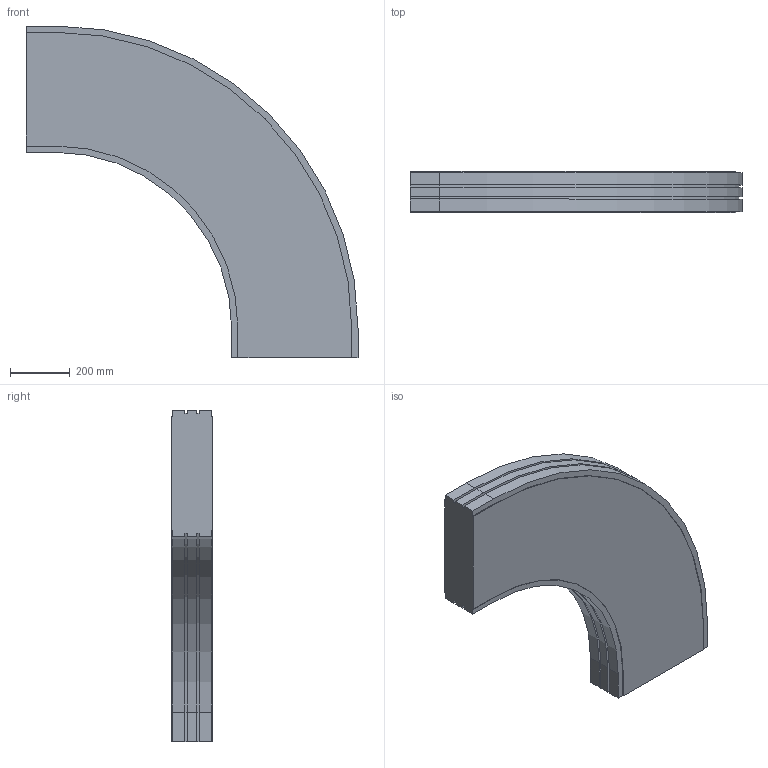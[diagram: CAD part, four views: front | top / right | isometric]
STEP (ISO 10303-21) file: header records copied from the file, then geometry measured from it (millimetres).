
FILE_DESCRIPTION (( 'STEP AP214' ), '1' );
FILE_NAME ('02.150H90.420.N FS-MTC-150 Bocht horizontaal 90°.STEP', '2013-03-29T11:17:06', ( 'Gebruiker' ), ( '' ), 'SwSTEP 2.0', 'SolidWorks 2012', '' );
FILE_SCHEMA (( 'AUTOMOTIVE_DESIGN' ));
Length unit declared in the file: millimetre
Products named in the file (1): 02.150H90.420.N FS-MTC-150 Bocht horizontaal 90°
Bounding box: 1111.5 x 136 x 1111.5 mm (x, y, z)
Volume: 82946740.8 mm3; surface area: 1870592.3 mm2
Topology: 1 solids, 1 shells, 58 faces, 168 edges, 112 vertices
Faces by surface type: plane 44, cylinder 14
Entity records: 1934 total; most frequent: CARTESIAN_POINT 339, ORIENTED_EDGE 336, DIRECTION 314, EDGE_CURVE 168, LINE 140, VECTOR 140, VERTEX_POINT 112, AXIS2_PLACEMENT_3D 87
